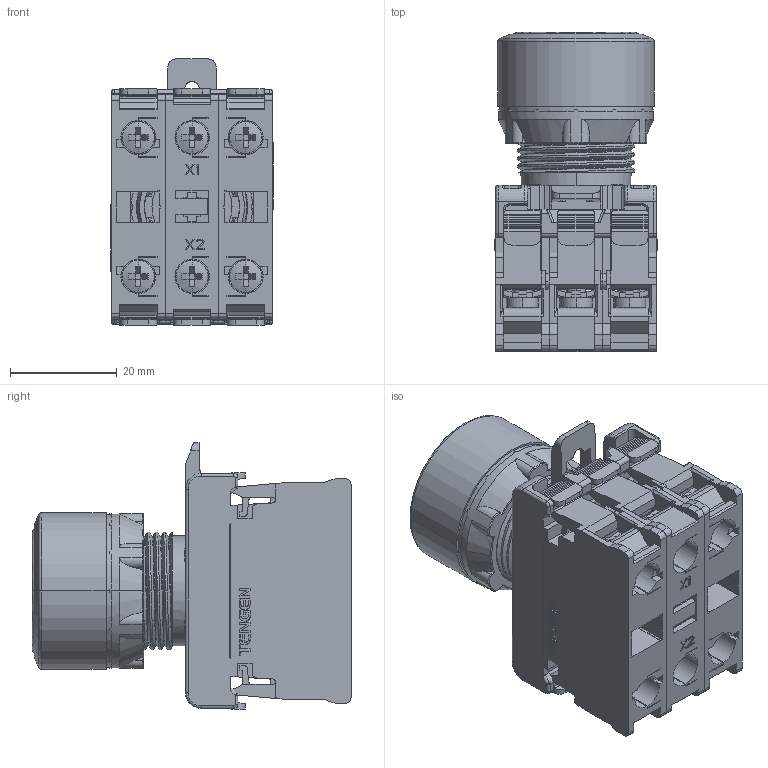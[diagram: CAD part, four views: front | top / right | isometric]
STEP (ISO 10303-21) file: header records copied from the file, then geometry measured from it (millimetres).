
FILE_DESCRIPTION (( 'STEP AP214' ), '1' );
FILE_NAME ('TGLA1-P.stp', '2026-05-15T08:59:32', ( '' ), ( '' ), 'SwSTEP 2.0', 'SolidWorks 2024', '' );
FILE_SCHEMA (( 'AUTOMOTIVE_DESIGN' ));
Length unit declared in the file: millimetre
Products named in the file (1): TGLA1-P
Bounding box: 30.5 x 59.75 x 49.8 mm (x, y, z)
Volume: 26266.9 mm3; surface area: 37789.5 mm2
Topology: 6 solids, 12 shells, 3405 faces, 9566 edges, 6203 vertices
Faces by surface type: plane 2098, cylinder 837, bspline 231, cone 167, torus 56, sphere 16
Entity records: 127490 total; most frequent: CARTESIAN_POINT 39990, ORIENTED_EDGE 19120, DIRECTION 17185, EDGE_CURVE 9560, LINE 6565, VECTOR 6565, VERTEX_POINT 6203, AXIS2_PLACEMENT_3D 5310
